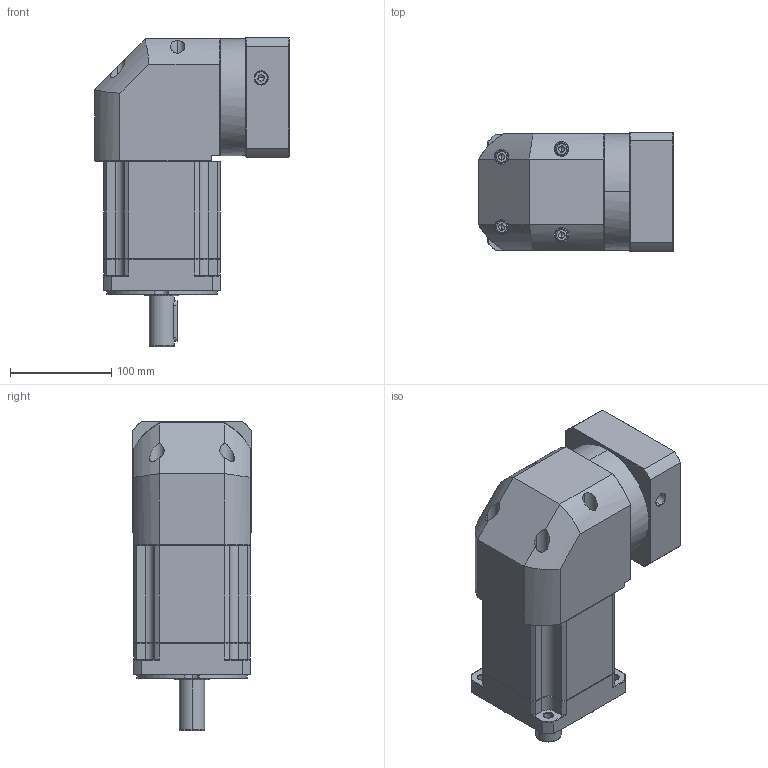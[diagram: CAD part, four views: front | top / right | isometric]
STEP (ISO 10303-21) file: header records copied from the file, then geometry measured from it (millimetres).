
FILE_DESCRIPTION (( 'STEP AP214' ), '1' );
FILE_NAME ('ZBR115A-D25-L3-P2-24-95-130-M8.step', '2023-08-26T12:35:31', ( '' ), ( '' ), 'SwSTEP 2.0', 'SolidWorks 2016', '' );
FILE_SCHEMA (( 'AUTOMOTIVE_DESIGN' ));
Length unit declared in the file: millimetre
Products named in the file (1): ZBR115A-D25-L3-P2-24-95-130-M8
Bounding box: 192.4 x 118 x 305 mm (x, y, z)
Volume: 3616508.3 mm3; surface area: 270521.5 mm2
Topology: 6 solids, 6 shells, 2379 faces, 6241 edges, 3966 vertices
Faces by surface type: plane 1139, cylinder 439, bspline 424, cone 369, torus 8
Entity records: 128038 total; most frequent: CARTESIAN_POINT 46864, ORIENTED_EDGE 12422, DIRECTION 9797, EDGE_CURVE 6211, LINE 3991, VECTOR 3991, VERTEX_POINT 3966, AXIS2_PLACEMENT_3D 2903
